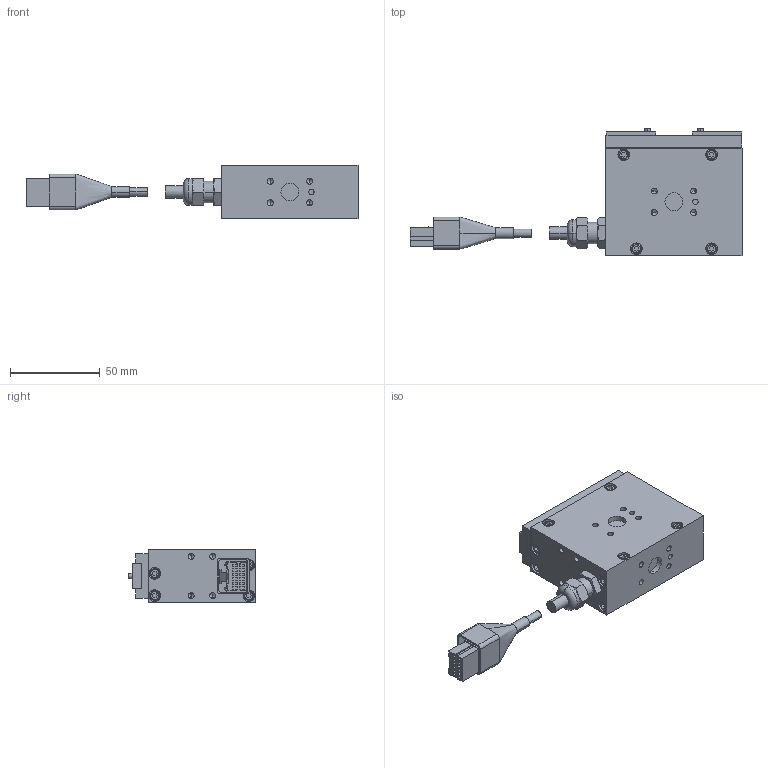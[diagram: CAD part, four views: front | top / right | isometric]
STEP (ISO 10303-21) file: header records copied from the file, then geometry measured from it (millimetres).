
FILE_DESCRIPTION (( 'STEP AP214' ), '1' );
FILE_NAME ('ESG-FS-2020.STEP', '2009-02-12T08:36:03', ( '風音庵' ), ( '' ), 'SwSTEP 2.0', 'SolidWorks 2007', '' );
FILE_SCHEMA (( 'AUTOMOTIVE_DESIGN' ));
Length unit declared in the file: millimetre
Products named in the file (7): ESG1-FS-2020 FINGER_蹬怮椔; JOINT_蹬怮椔; CONNECTOR COVER　BB_ﾃﾞﾌｫﾙﾄ; ESG1-FS-2020 BODY_蹬怮椔; ESG-FS-2020; CONNECTOR　DK-2100D-12R_ﾃﾞﾌｫﾙﾄ; CNNECTOR丂BB丂ASSY_棉太倌
Assembly tree (7 placements, depth 3):
  ESG-FS-2020
    ESG1-FS-2020 BODY_蹬怮椔
    ESG1-FS-2020 FINGER_蹬怮椔  x2
    JOINT_蹬怮椔
    CNNECTOR丂BB丂ASSY_棉太倌
      CONNECTOR　DK-2100D-12R_ﾃﾞﾌｫﾙﾄ
      CONNECTOR COVER　BB_ﾃﾞﾌｫﾙﾄ
Bounding box: 185.39 x 71 x 30 mm (x, y, z)
Volume: 160505.1 mm3; surface area: 33156.3 mm2
Topology: 6 solids, 6 shells, 447 faces, 1048 edges, 658 vertices
Faces by surface type: plane 263, cylinder 104, cone 76, torus 2, bspline 2
Entity records: 17604 total; most frequent: CARTESIAN_POINT 2775, DIRECTION 2064, ORIENTED_EDGE 1980, EDGE_CURVE 990, LINE 690, VECTOR 690, AXIS2_PLACEMENT_3D 687, VERTEX_POINT 636
